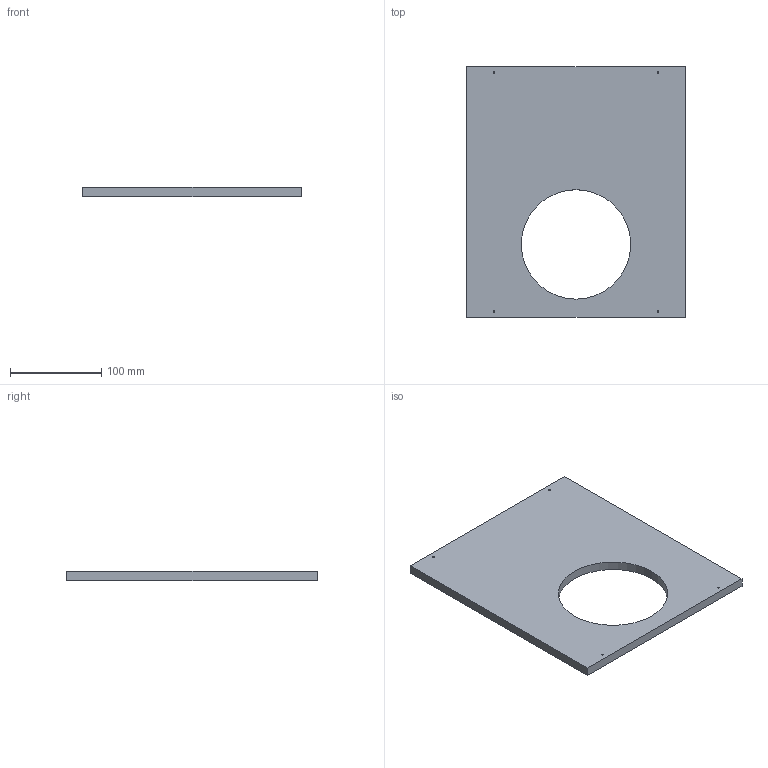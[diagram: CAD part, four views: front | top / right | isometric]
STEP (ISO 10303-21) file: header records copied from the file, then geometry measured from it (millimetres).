
FILE_DESCRIPTION(('FreeCAD Model'),'2;1');
FILE_NAME( '/home/bluelambda/Documents/Arcade/cad/step/bottom_trapdoor.step', '2016-05-08T11:43:04',('Author'),(''), 'Open CASCADE STEP processor 6.9','FreeCAD','Unknown');
FILE_SCHEMA(('AUTOMOTIVE_DESIGN { 1 0 10303 214 1 1 1 1 }'));
Length unit declared in the file: millimetre
Products named in the file (1): bottom_trapdoor
Bounding box: 240 x 275 x 10 mm (x, y, z)
Volume: 546777 mm3; surface area: 123676.6 mm2
Topology: 1 solids, 1 shells, 11 faces, 27 edges, 18 vertices
Faces by surface type: plane 6, cylinder 5
Full cylindrical faces by diameter (mm): 2 x4, 120 x1
Entity records: 723 total; most frequent: DIRECTION 115, CARTESIAN_POINT 111, LINE 61, VECTOR 61, ORIENTED_EDGE 54, PCURVE 54, DEFINITIONAL_REPRESENTATION 54, EDGE_CURVE 27
